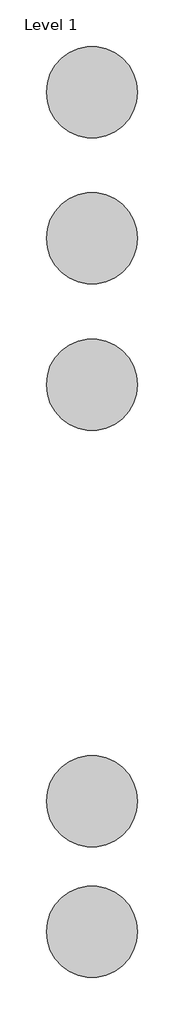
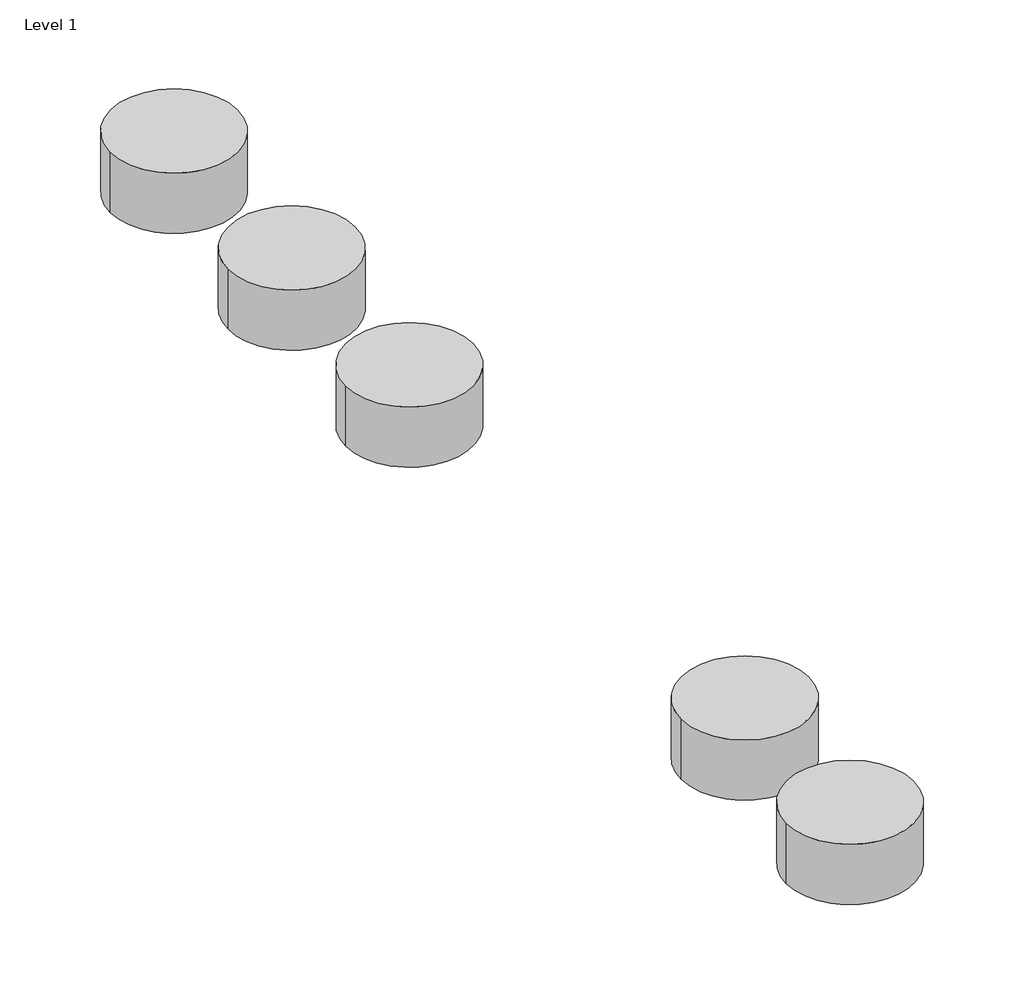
# One storey, incomplete: 5 proxies.
"""IFC4 building model written with IfcOpenShell, lengths in millimetres."""

from ifc_helpers import new_model, si_unit, origin, place, context, project, spatial, transform, mapped, element, save
from components import materialmodel_materialmodel_02e69005

model = new_model("IFC4")

# Units and contexts
model_context = context("Model", 3, world=origin())
ifc_project = project(units=[si_unit("LENGTHUNIT", "METRE", prefix="MILLI")], contexts=[model_context])

# Site, building, storey
site = spatial("IfcSite", under=ifc_project)
building = spatial("IfcBuilding", under=site)
storey = spatial("IfcBuildingStorey", under=building, Name="Level 1", Elevation=0.0)

# Proxies
placement = place(None, origin())
materialmodel_materialmodel_shape = materialmodel_materialmodel_02e69005(model_context)
element("IfcBuildingElementProxy", 1, Name="MaterialModel : MaterialModel", ObjectType="MaterialModel : MaterialModel", at=placement, inside=storey, context=model_context, shape_type="MappedRepresentation", body=[
    mapped(materialmodel_materialmodel_shape, transform((-5272.1657896, 3923.699322, 0.0), x_axis=(1.0, 0.0, 0.0), y_axis=(0.0, 1.0, 0.0), z_axis=(0.0, 0.0, 1.0))),
])
element("IfcBuildingElementProxy", 2, Name="MaterialModel : MaterialModel", ObjectType="MaterialModel : MaterialModel", at=placement, inside=storey, context=model_context, shape_type="MappedRepresentation", body=[
    mapped(materialmodel_materialmodel_shape, transform((-5272.1657896, 4699.7424563, 0.0), x_axis=(1.0, 0.0, 0.0), y_axis=(0.0, 1.0, 0.0), z_axis=(0.0, 0.0, 1.0))),
])
element("IfcBuildingElementProxy", 3, Name="MaterialModel : MaterialModel", ObjectType="MaterialModel : MaterialModel", at=placement, inside=storey, context=model_context, shape_type="MappedRepresentation", body=[
    mapped(materialmodel_materialmodel_shape, transform((-5272.1657896, 4539.7424563, 0.0), x_axis=(1.0, 0.0, 0.0), y_axis=(0.0, 1.0, 0.0), z_axis=(0.0, 0.0, 1.0))),
])
element("IfcBuildingElementProxy", 4, Name="MaterialModel : MaterialModel", ObjectType="MaterialModel : MaterialModel", at=placement, inside=storey, context=model_context, shape_type="MappedRepresentation", body=[
    mapped(materialmodel_materialmodel_shape, transform((-5272.1657896, 4379.7424563, 0.0), x_axis=(1.0, 0.0, 0.0), y_axis=(0.0, 1.0, 0.0), z_axis=(0.0, 0.0, 1.0))),
])
element("IfcBuildingElementProxy", 5, Name="MaterialModel : MaterialModel", ObjectType="MaterialModel : MaterialModel", at=placement, inside=storey, context=model_context, shape_type="MappedRepresentation", body=[
    mapped(materialmodel_materialmodel_shape, transform((-5272.1657896, 3780.8114519, 0.0), x_axis=(1.0, 0.0, 0.0), y_axis=(0.0, 1.0, 0.0), z_axis=(0.0, 0.0, 1.0))),
])

save(model, "model.ifc")
